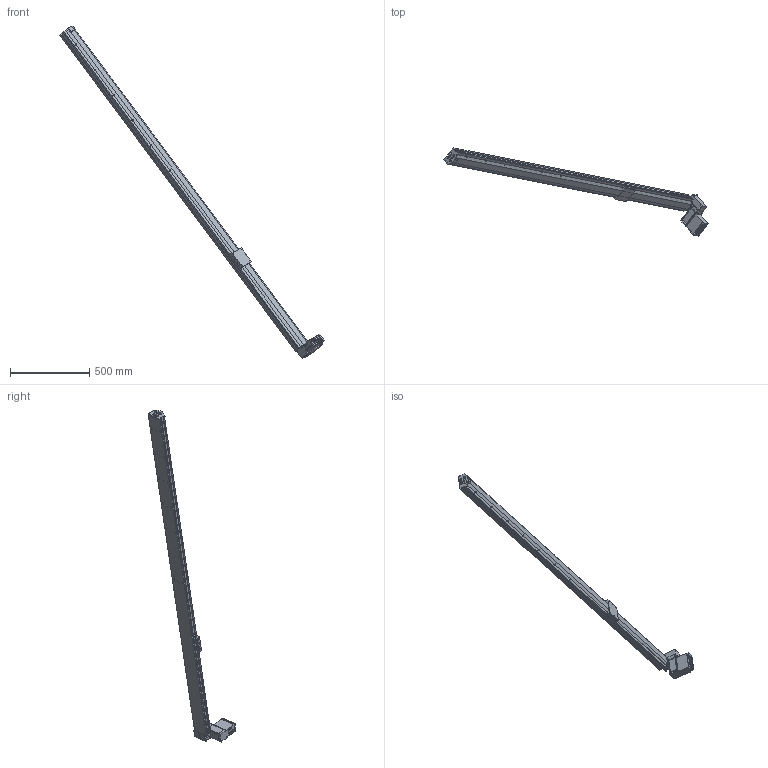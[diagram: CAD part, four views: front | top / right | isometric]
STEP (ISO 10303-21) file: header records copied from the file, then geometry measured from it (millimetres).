
FILE_DESCRIPTION (( 'STEP AP203' ), '1' );
FILE_NAME ('S10 CBH RT 2500.STEP', '2012-10-01T11:57:23', ( '' ), ( '' ), 'SwSTEP 2.0', 'SolidWorks 2010', '' );
FILE_SCHEMA (( 'CONFIG_CONTROL_DESIGN' ));
Length unit declared in the file: millimetre
Products named in the file (9): embout; moteur M3_1; Plaque racord_; palette tbh; S10 CBH RT 2500; moteur M3; plaque de bout; MOTEUR GMI 61 ; axe 2500
Assembly tree (7 placements, depth 3):
  S10 CBH RT 2500
    embout
    plaque de bout
      Plaque racord_
      moteur M3_1
    MOTEUR GMI 61 
    axe 2500
    palette tbh
  moteur M3
Bounding box: 1670.37 x 554.81 x 2097.14 mm (x, y, z)
Volume: 13929532.8 mm3; surface area: 1327650.7 mm2
Topology: 5 solids, 18 shells, 787 faces, 2054 edges, 1292 vertices
Faces by surface type: plane 381, cylinder 297, cone 74, torus 23, bspline 8, sphere 4
Entity records: 27297 total; most frequent: CARTESIAN_POINT 7007, DIRECTION 4097, ORIENTED_EDGE 3860, EDGE_CURVE 1980, AXIS2_PLACEMENT_3D 1418, VERTEX_POINT 1292, LINE 1261, VECTOR 1261
